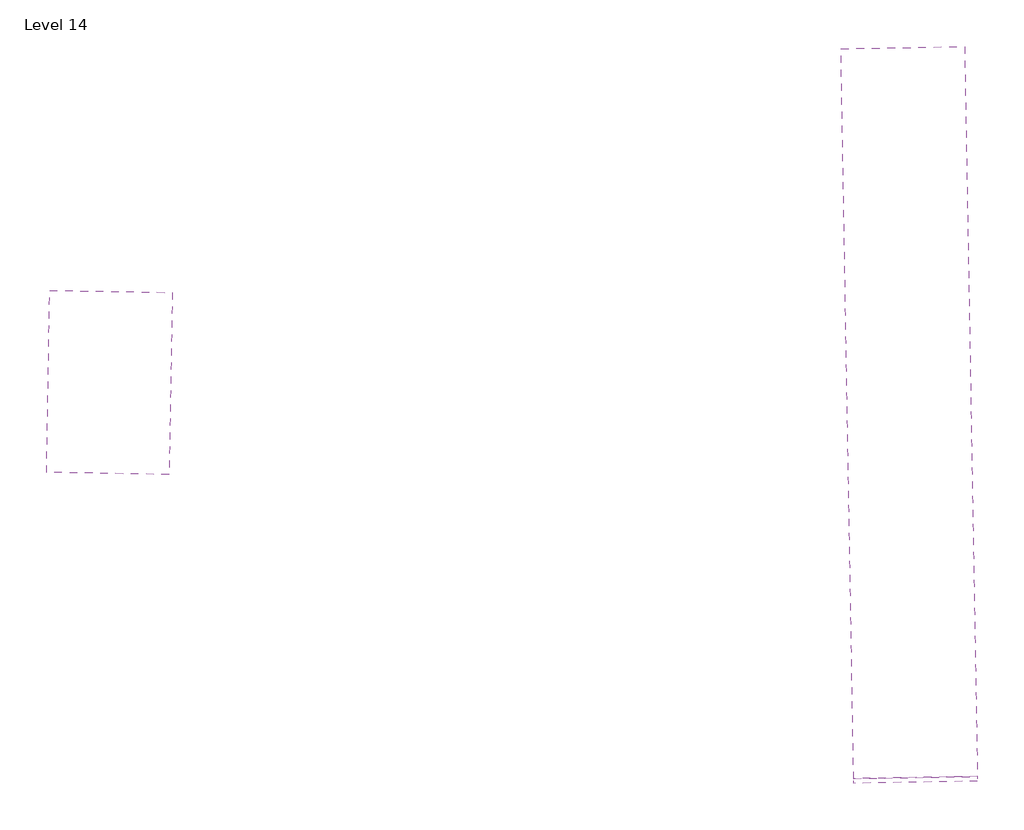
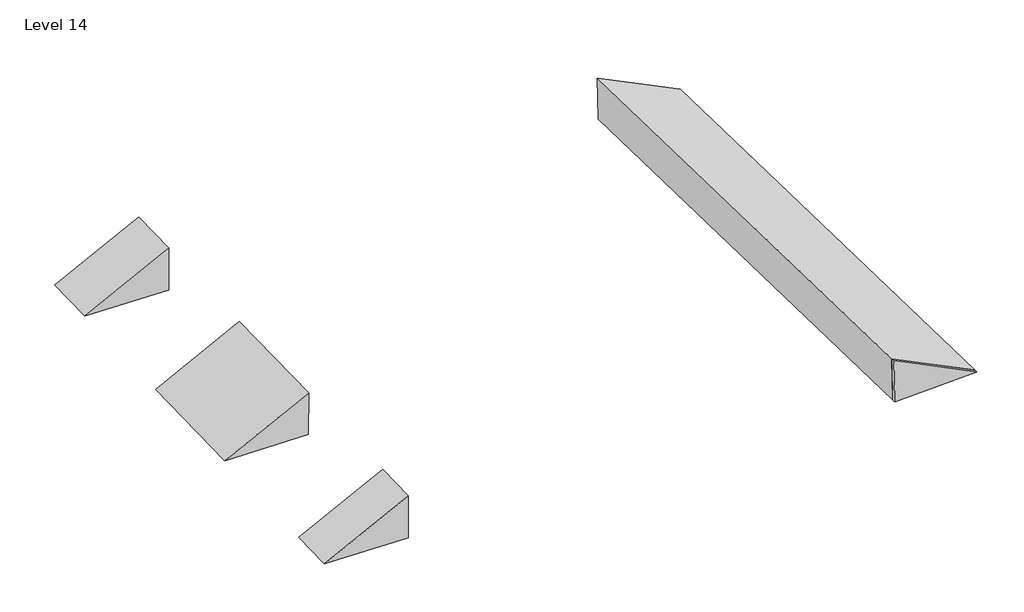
# One storey: 3 proxies.
"""IFC4 building model written with IfcOpenShell, lengths in millimetres."""

from ifc_helpers import new_model, si_unit, origin, place, context, project, spatial, faceted_brep, element, save

model = new_model("IFC4")

# Units and contexts
model_context = context("Model", 3, world=origin())
ifc_project = project(units=[si_unit("LENGTHUNIT", "METRE", prefix="MILLI")], contexts=[model_context])

# Site, building, storey
site = spatial("IfcSite", under=ifc_project)
building = spatial("IfcBuilding", under=site)
storey = spatial("IfcBuildingStorey", under=building, Name="Level 14", Elevation=3700.7172067)

# Proxies
placement = place(None, origin())
element("IfcBuildingElementProxy", 1, Name="Wall Sweeps", at=placement, inside=storey, context=model_context, shape_type="Brep", body=[
    faceted_brep([(2503.9441082, 2226.1768516, 5715.0005344), (3131.1758011, 2237.1252215, 5399.1516202), (2511.429788, 2226.3075146, 5385.0854734), (2511.1106311, 2226.3019437, 5399.1516202), (2568.607588, -1478.3914245, 5715.0005344), (2576.0932678, -1478.2607615, 5385.0854734), (3195.8392809, -1467.4430546, 5399.1516202)], [[[0, 1, 2, 3]], [[4, 5, 6]], [[1, 0, 4, 6]], [[2, 1, 6, 5]], [[0, 3, 2, 5, 4]]]),
])
element("IfcBuildingElementProxy", 2, Name="Wall Sweeps", at=placement, inside=storey, context=model_context, shape_type="Brep", body=[
    faceted_brep([(2568.607588, -1478.3914245, 5715.0005344), (3195.8392809, -1467.4430546, 5399.1516202), (2576.0932678, -1478.2607615, 5385.0854734), (2569.0221038, -1502.1390206, 5715.0005344), (2576.1886267, -1502.0139285, 5399.1516202), (2576.5077836, -1502.0083576, 5385.0854734), (3196.2537967, -1491.1906507, 5399.1516202)], [[[0, 1, 2]], [[3, 4, 5, 6]], [[1, 0, 3, 6]], [[2, 1, 6, 5]], [[0, 2, 5, 4, 3]]]),
])
element("IfcBuildingElementProxy", 3, Name="Wall Sweeps", at=placement, inside=storey, context=model_context, shape_type="Brep", body=[
    faceted_brep([(-871.2718787, 1933.8201402, 5725.900799), (-1492.8965571, 1944.6706393, 5399.1516202), (-872.9994836, 1933.8502956, 5395.9053226), (-864.2909161, 2333.7592182, 5725.900799), (-866.018521, 2333.7893737, 5395.9053226), (-1485.9155945, 2344.6097173, 5399.1516202), (-867.7058001, 2237.1252215, 5395.9053226)], [[[0, 1, 2]], [[3, 4, 5]], [[1, 0, 3, 5]], [[2, 1, 5, 4, 6]], [[0, 2, 6, 4, 3]]]),
    faceted_brep([(-903.8934986, 64.9287905, 5725.900799), (-1525.5181769, 75.7792896, 5399.1516202), (-905.6211035, 64.958946, 5395.9053226), (-887.7649549, 988.9324397, 5725.900799), (-889.4925598, 988.9625951, 5395.9053226), (-1509.3896333, 999.7829388, 5399.1516202)], [[[0, 1, 2]], [[3, 4, 5]], [[1, 0, 3, 5]], [[2, 1, 5, 4]], [[0, 2, 4, 3]]]),
    faceted_brep([(-927.1484181, -1267.3446566, 5725.900799), (-1548.7730965, -1256.4941575, 5399.1516202), (-928.876023, -1267.3145011, 5395.9053226), (-921.1713809, -924.9204277, 5725.900799), (-922.8989858, -924.8902722, 5395.9053226), (-1542.7960593, -914.0699286, 5399.1516202), (-928.5348919, -1247.7711169, 5395.9053226)], [[[0, 1, 2]], [[3, 4, 5]], [[1, 0, 3, 5]], [[2, 1, 5, 4, 6]], [[0, 2, 6, 4, 3]]]),
])

save(model, "model.ifc")
